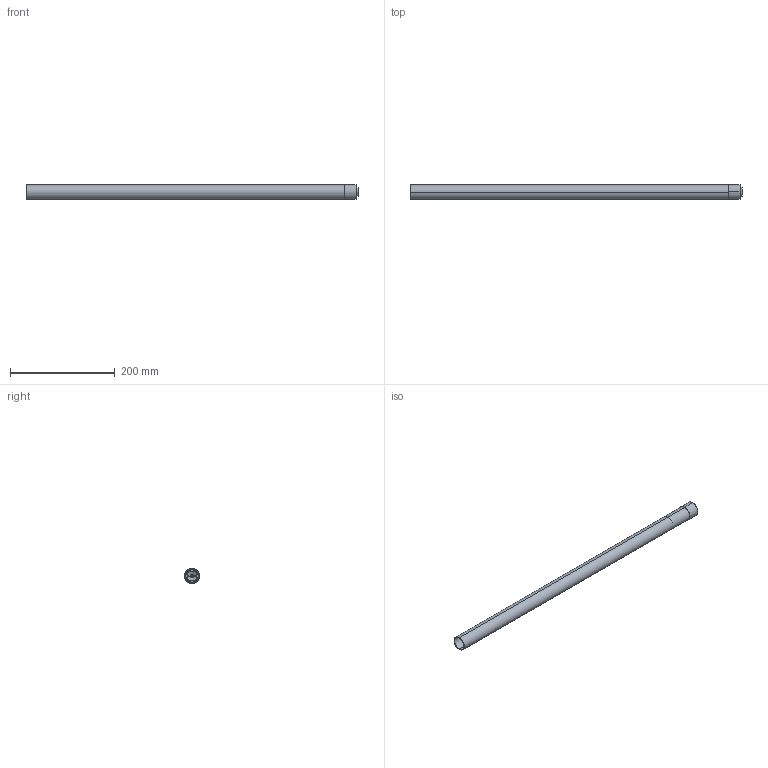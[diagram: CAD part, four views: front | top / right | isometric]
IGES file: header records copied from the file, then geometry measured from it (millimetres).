
Start section: SolidWorks IGES file using analytic representation for surfaces
Global section: file name: \\SERVER3\Design\_New Design Drive Folder List\_Design Vault\AAI\Modular Round Tube Connectors\Solidworks Models\Demonstrations\25. Assemblies\Modular Connectors\1. End Connectors\End Connectors Solid Models\Hex Bossed Threaded End Connector.IGS; native system: SolidWorks 2013; preprocessor: SolidWorks 2013; author: tbraun; date: 130909.120409; units: inch
Bounding box: 635 x 28.57 x 28.57 mm (x, y, z)
Surface area: 112578.4 mm2 (no closed solid volume)
Topology: 0 solids, 0 shells, 45 faces, 612 edges, 612 vertices
Faces by surface type: bspline 24, revolution 21
